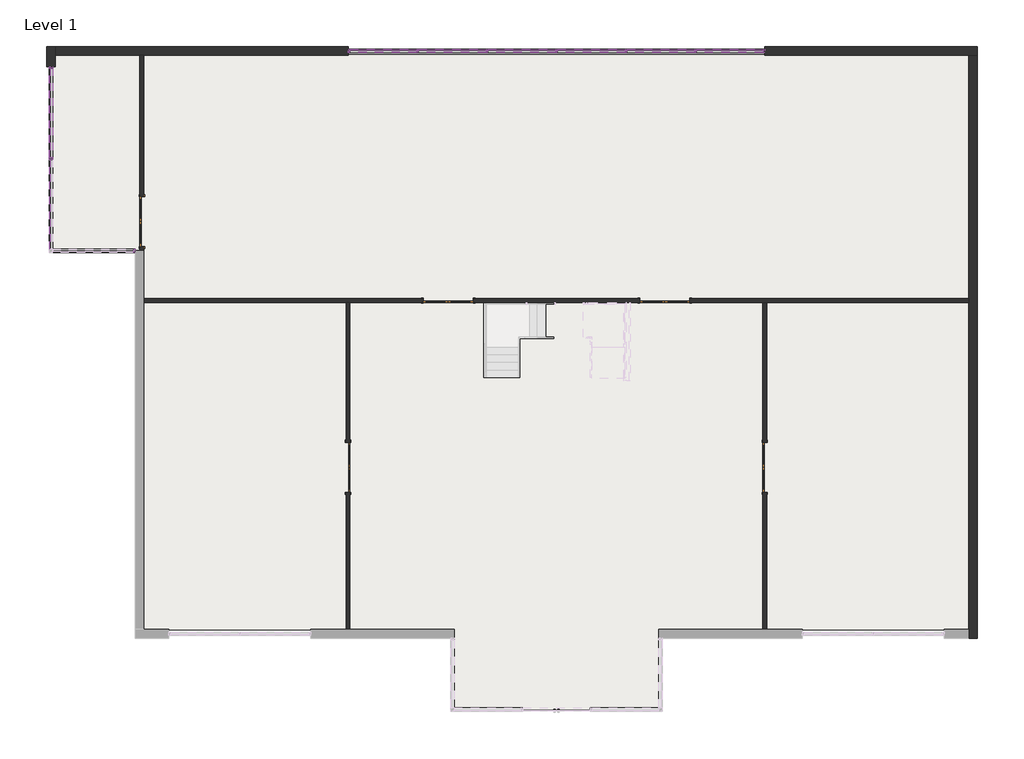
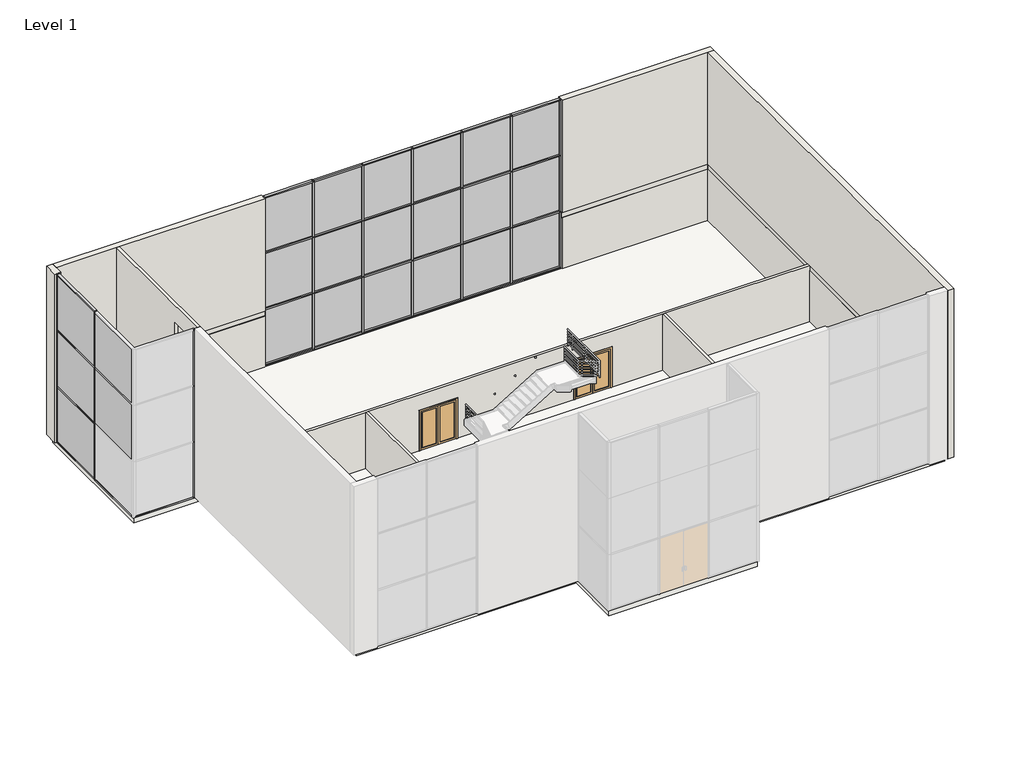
# One storey, part 2 of 5: 60 members, 23 plates, 7 walls, 5 doors, 1 slab.
"""IFC4 building model written with IfcOpenShell, lengths in millimetres."""

from ifc_helpers import new_model, si_unit, frame, origin, place, context, project, spatial, polyline, outline, extrude, faceted_brep, transform, mapped, element, save
from components import door_cb31edf2, door_3f2f997e, member_3f395ae9, member_65a3e7b2, member_eaba9652, member_4955b6a0, member_9c76a069, member_1f84ea9c, member_2d82c926, member_728bf22d, member_0c17b8a1, system_panel_glazed_e83c8d5a, system_panel_glazed_b0f97b96, system_panel_glazed_f5e36016, system_panel_glazed_d42ca814, system_panel_glazed_c65d631f, system_panel_glazed_26911bd7

model = new_model("IFC4")

# Units and contexts
model_context = context("Model", 3, world=origin())
ifc_project = project(units=[si_unit("LENGTHUNIT", "METRE", prefix="MILLI")], contexts=[model_context])

# Site, building, storey
site = spatial("IfcSite", under=ifc_project)
building = spatial("IfcBuilding", under=site)
storey = spatial("IfcBuildingStorey", under=building, Name="Level 1", Elevation=0.0)

# Doors
placement = place(None, origin())
door_shape = door_cb31edf2(model_context)
element("IfcDoor", 1, ObjectType="Door-Double-Glass : 72\" x 84\"", at=placement, inside=storey, context=model_context, shape_type="MappedRepresentation", body=[
    mapped(door_shape, transform((-18248.748632, 9505.1983604, 0.0), x_axis=(0.0, 1.0, 0.0), y_axis=(-1.0, 0.0, 0.0), z_axis=(0.0, 0.0, 1.0))),
])
door_2_shape = door_3f2f997e(model_context)
element("IfcDoor", 2, ObjectType="Door-Double-Glass : 72\" x 84\"", at=placement, inside=storey, context=model_context, shape_type="MappedRepresentation", body=[
    mapped(door_2_shape, transform((-10711.298632, 513.5983604, 0.0), x_axis=(0.0, -1.0, 0.0), y_axis=(1.0, 0.0, 0.0), z_axis=(0.0, 0.0, 1.0))),
])
element("IfcDoor", 3, ObjectType="Door-Double-Glass : 72\" x 84\"", at=placement, inside=storey, context=model_context, shape_type="MappedRepresentation", body=[
    mapped(door_2_shape, transform((4533.463868, 513.5983604, 0.0), x_axis=(0.0, 1.0, 0.0), y_axis=(-1.0, 0.0, 0.0), z_axis=(0.0, 0.0, 1.0))),
])
element("IfcDoor", 4, ObjectType="Door-Double-Glass : 72\" x 84\"", at=placement, inside=storey, context=model_context, shape_type="MappedRepresentation", body=[
    mapped(door_2_shape, transform((-7051.317382, 6611.9796104, 0.0), x_axis=(-1.0, 0.0, 0.0), y_axis=(0.0, -1.0, 0.0), z_axis=(0.0, 0.0, 1.0))),
])
element("IfcDoor", 5, ObjectType="Door-Double-Glass : 72\" x 84\"", at=placement, inside=storey, context=model_context, shape_type="MappedRepresentation", body=[
    mapped(door_2_shape, transform((873.482618, 6611.9796104, 0.0), x_axis=(-1.0, 0.0, 0.0), y_axis=(0.0, -1.0, 0.0), z_axis=(0.0, 0.0, 1.0))),
])

# Members
member_shape = member_3f395ae9(model_context)
element("IfcMember", 6, ObjectType="Rectangular Mullion : 2.5\" x 5\" rectangular", at=placement, inside=storey, context=model_context, shape_type="MappedRepresentation", body=[
    mapped(member_shape, transform((-18484.492382, 8438.3983604, 9144.0), x_axis=(1.0, 0.0, 0.0), y_axis=(0.0, 1.0, 0.0), z_axis=(0.0, 0.0, 1.0))),
])
element("IfcMember", 7, ObjectType="Rectangular Mullion : 2.5\" x 5\" rectangular", at=placement, inside=storey, context=model_context, shape_type="MappedRepresentation", body=[
    mapped(member_shape, transform((-18484.492382, 8438.3983604, 3048.0), x_axis=(1.0, 0.0, 0.0), y_axis=(0.0, 1.0, 0.0), z_axis=(0.0, 0.0, 1.0))),
])
member_2_shape = member_65a3e7b2(model_context)
element("IfcMember", 8, ObjectType="Rectangular Mullion : 2.5\" x 5\" rectangular", at=placement, inside=storey, context=model_context, shape_type="MappedRepresentation", body=[
    mapped(member_2_shape, transform((-10645.417382, 15753.5983604, 9144.0), x_axis=(0.0, 0.0, 1.0), y_axis=(0.0, 1.0, 0.0), z_axis=(-1.0, 0.0, 0.0))),
])
element("IfcMember", 9, ObjectType="Rectangular Mullion : 2.5\" x 5\" rectangular", at=placement, inside=storey, context=model_context, shape_type="MappedRepresentation", body=[
    mapped(member_2_shape, transform((2022.8326178, 15753.5983604, 9144.0), x_axis=(0.0, 0.0, 1.0), y_axis=(0.0, 1.0, 0.0), z_axis=(-1.0, 0.0, 0.0))),
])
element("IfcMember", 10, ObjectType="Rectangular Mullion : 2.5\" x 5\" rectangular", at=placement, inside=storey, context=model_context, shape_type="MappedRepresentation", body=[
    mapped(member_2_shape, transform((4467.582618, 15753.5983604, 0.0), x_axis=(0.0, 0.0, -1.0), y_axis=(0.0, 1.0, 0.0), z_axis=(1.0, 0.0, 0.0))),
])
element("IfcMember", 11, ObjectType="Rectangular Mullion : 2.5\" x 5\" rectangular", at=placement, inside=storey, context=model_context, shape_type="MappedRepresentation", body=[
    mapped(member_2_shape, transform((-8200.6673818, 15753.5983604, 0.0), x_axis=(0.0, 0.0, -1.0), y_axis=(0.0, 1.0, 0.0), z_axis=(1.0, 0.0, 0.0))),
])
member_3_shape = member_eaba9652(model_context)
element("IfcMember", 12, ObjectType="Rectangular Mullion : 2.5\" x 5\" rectangular", at=placement, inside=storey, context=model_context, shape_type="MappedRepresentation", body=[
    mapped(member_3_shape, transform((1991.0826178, 15753.5983604, 0.0), x_axis=(-1.0, 0.0, 0.0), y_axis=(0.0, 1.0, 0.0), z_axis=(0.0, 0.0, -1.0))),
])
element("IfcMember", 13, ObjectType="Rectangular Mullion : 2.5\" x 5\" rectangular", at=placement, inside=storey, context=model_context, shape_type="MappedRepresentation", body=[
    mapped(member_3_shape, transform((-548.9173821, 15753.5983604, 0.0), x_axis=(-1.0, 0.0, 0.0), y_axis=(0.0, 1.0, 0.0), z_axis=(0.0, 0.0, -1.0))),
])
element("IfcMember", 14, ObjectType="Rectangular Mullion : 2.5\" x 5\" rectangular", at=placement, inside=storey, context=model_context, shape_type="MappedRepresentation", body=[
    mapped(member_3_shape, transform((-3088.917382, 15753.5983604, 0.0), x_axis=(-1.0, 0.0, 0.0), y_axis=(0.0, 1.0, 0.0), z_axis=(0.0, 0.0, -1.0))),
])
element("IfcMember", 15, ObjectType="Rectangular Mullion : 2.5\" x 5\" rectangular", at=placement, inside=storey, context=model_context, shape_type="MappedRepresentation", body=[
    mapped(member_3_shape, transform((-5628.9173819, 15753.5983604, 0.0), x_axis=(-1.0, 0.0, 0.0), y_axis=(0.0, 1.0, 0.0), z_axis=(0.0, 0.0, -1.0))),
])
element("IfcMember", 16, ObjectType="Rectangular Mullion : 2.5\" x 5\" rectangular", at=placement, inside=storey, context=model_context, shape_type="MappedRepresentation", body=[
    mapped(member_3_shape, transform((-8168.9173818, 15753.5983604, 0.0), x_axis=(-1.0, 0.0, 0.0), y_axis=(0.0, 1.0, 0.0), z_axis=(0.0, 0.0, -1.0))),
])
element("IfcMember", 17, ObjectType="Rectangular Mullion : 2.5\" x 5\" rectangular", at=placement, inside=storey, context=model_context, shape_type="MappedRepresentation", body=[
    mapped(member_3_shape, transform((-21580.117382, 11807.0733604, 0.0), x_axis=(0.0, -1.0, 0.0), y_axis=(-1.0, 0.0, 0.0), z_axis=(0.0, 0.0, -1.0))),
])
member_4_shape = member_4955b6a0(model_context)
element("IfcMember", 18, ObjectType="Rectangular Mullion : 2.5\" x 5\" rectangular", at=placement, inside=storey, context=model_context, shape_type="MappedRepresentation", body=[
    mapped(member_4_shape, transform((2022.8326178, 15753.5983604, 3048.0), x_axis=(0.0, 0.0, 1.0), y_axis=(0.0, 1.0, 0.0), z_axis=(-1.0, 0.0, 0.0))),
])
element("IfcMember", 19, ObjectType="Rectangular Mullion : 2.5\" x 5\" rectangular", at=placement, inside=storey, context=model_context, shape_type="MappedRepresentation", body=[
    mapped(member_4_shape, transform((-10645.417382, 15753.5983604, 3048.0), x_axis=(0.0, 0.0, 1.0), y_axis=(0.0, 1.0, 0.0), z_axis=(-1.0, 0.0, 0.0))),
])
element("IfcMember", 20, ObjectType="Rectangular Mullion : 2.5\" x 5\" rectangular", at=placement, inside=storey, context=model_context, shape_type="MappedRepresentation", body=[
    mapped(member_4_shape, transform((2022.8326178, 15753.5983604, 6096.0), x_axis=(0.0, 0.0, 1.0), y_axis=(0.0, 1.0, 0.0), z_axis=(-1.0, 0.0, 0.0))),
])
element("IfcMember", 21, ObjectType="Rectangular Mullion : 2.5\" x 5\" rectangular", at=placement, inside=storey, context=model_context, shape_type="MappedRepresentation", body=[
    mapped(member_4_shape, transform((-10645.417382, 15753.5983604, 6096.0), x_axis=(0.0, 0.0, 1.0), y_axis=(0.0, 1.0, 0.0), z_axis=(-1.0, 0.0, 0.0))),
])
member_5_shape = member_9c76a069(model_context)
element("IfcMember", 22, ObjectType="Rectangular Mullion : 2.5\" x 5\" rectangular", at=placement, inside=storey, context=model_context, shape_type="MappedRepresentation", body=[
    mapped(member_5_shape, transform((-517.1673821, 15753.5983604, 3048.0), x_axis=(0.0, 0.0, 1.0), y_axis=(0.0, 1.0, 0.0), z_axis=(-1.0, 0.0, 0.0))),
])
element("IfcMember", 23, ObjectType="Rectangular Mullion : 2.5\" x 5\" rectangular", at=placement, inside=storey, context=model_context, shape_type="MappedRepresentation", body=[
    mapped(member_5_shape, transform((-3057.167382, 15753.5983604, 3048.0), x_axis=(0.0, 0.0, 1.0), y_axis=(0.0, 1.0, 0.0), z_axis=(-1.0, 0.0, 0.0))),
])
element("IfcMember", 24, ObjectType="Rectangular Mullion : 2.5\" x 5\" rectangular", at=placement, inside=storey, context=model_context, shape_type="MappedRepresentation", body=[
    mapped(member_5_shape, transform((-5597.1673819, 15753.5983604, 3048.0), x_axis=(0.0, 0.0, 1.0), y_axis=(0.0, 1.0, 0.0), z_axis=(-1.0, 0.0, 0.0))),
])
element("IfcMember", 25, ObjectType="Rectangular Mullion : 2.5\" x 5\" rectangular", at=placement, inside=storey, context=model_context, shape_type="MappedRepresentation", body=[
    mapped(member_5_shape, transform((-8137.1673818, 15753.5983604, 3048.0), x_axis=(0.0, 0.0, 1.0), y_axis=(0.0, 1.0, 0.0), z_axis=(-1.0, 0.0, 0.0))),
])
element("IfcMember", 26, ObjectType="Rectangular Mullion : 2.5\" x 5\" rectangular", at=placement, inside=storey, context=model_context, shape_type="MappedRepresentation", body=[
    mapped(member_5_shape, transform((-517.1673821, 15753.5983604, 6096.0), x_axis=(0.0, 0.0, 1.0), y_axis=(0.0, 1.0, 0.0), z_axis=(-1.0, 0.0, 0.0))),
])
element("IfcMember", 27, ObjectType="Rectangular Mullion : 2.5\" x 5\" rectangular", at=placement, inside=storey, context=model_context, shape_type="MappedRepresentation", body=[
    mapped(member_5_shape, transform((-3057.167382, 15753.5983604, 6096.0), x_axis=(0.0, 0.0, 1.0), y_axis=(0.0, 1.0, 0.0), z_axis=(-1.0, 0.0, 0.0))),
])
element("IfcMember", 28, ObjectType="Rectangular Mullion : 2.5\" x 5\" rectangular", at=placement, inside=storey, context=model_context, shape_type="MappedRepresentation", body=[
    mapped(member_5_shape, transform((-5597.1673819, 15753.5983604, 6096.0), x_axis=(0.0, 0.0, 1.0), y_axis=(0.0, 1.0, 0.0), z_axis=(-1.0, 0.0, 0.0))),
])
element("IfcMember", 29, ObjectType="Rectangular Mullion : 2.5\" x 5\" rectangular", at=placement, inside=storey, context=model_context, shape_type="MappedRepresentation", body=[
    mapped(member_5_shape, transform((-8137.1673818, 15753.5983604, 6096.0), x_axis=(0.0, 0.0, 1.0), y_axis=(0.0, 1.0, 0.0), z_axis=(-1.0, 0.0, 0.0))),
])
member_6_shape = member_1f84ea9c(model_context)
element("IfcMember", 30, ObjectType="Rectangular Mullion : 2.5\" x 5\" rectangular", at=placement, inside=storey, context=model_context, shape_type="MappedRepresentation", body=[
    mapped(member_6_shape, transform((1959.3326178, 15753.5983604, 0.0), x_axis=(0.0, 0.0, -1.0), y_axis=(0.0, 1.0, 0.0), z_axis=(1.0, 0.0, 0.0))),
])
element("IfcMember", 31, ObjectType="Rectangular Mullion : 2.5\" x 5\" rectangular", at=placement, inside=storey, context=model_context, shape_type="MappedRepresentation", body=[
    mapped(member_6_shape, transform((-580.6673821, 15753.5983604, 0.0), x_axis=(0.0, 0.0, -1.0), y_axis=(0.0, 1.0, 0.0), z_axis=(1.0, 0.0, 0.0))),
])
element("IfcMember", 32, ObjectType="Rectangular Mullion : 2.5\" x 5\" rectangular", at=placement, inside=storey, context=model_context, shape_type="MappedRepresentation", body=[
    mapped(member_6_shape, transform((-3120.667382, 15753.5983604, 0.0), x_axis=(0.0, 0.0, -1.0), y_axis=(0.0, 1.0, 0.0), z_axis=(1.0, 0.0, 0.0))),
])
element("IfcMember", 33, ObjectType="Rectangular Mullion : 2.5\" x 5\" rectangular", at=placement, inside=storey, context=model_context, shape_type="MappedRepresentation", body=[
    mapped(member_6_shape, transform((-5660.6673819, 15753.5983604, 0.0), x_axis=(0.0, 0.0, -1.0), y_axis=(0.0, 1.0, 0.0), z_axis=(1.0, 0.0, 0.0))),
])
element("IfcMember", 34, ObjectType="Rectangular Mullion : 2.5\" x 5\" rectangular", at=placement, inside=storey, context=model_context, shape_type="MappedRepresentation", body=[
    mapped(member_6_shape, transform((-517.1673821, 15753.5983604, 9144.0), x_axis=(0.0, 0.0, 1.0), y_axis=(0.0, 1.0, 0.0), z_axis=(-1.0, 0.0, 0.0))),
])
element("IfcMember", 35, ObjectType="Rectangular Mullion : 2.5\" x 5\" rectangular", at=placement, inside=storey, context=model_context, shape_type="MappedRepresentation", body=[
    mapped(member_6_shape, transform((-3057.167382, 15753.5983604, 9144.0), x_axis=(0.0, 0.0, 1.0), y_axis=(0.0, 1.0, 0.0), z_axis=(-1.0, 0.0, 0.0))),
])
element("IfcMember", 36, ObjectType="Rectangular Mullion : 2.5\" x 5\" rectangular", at=placement, inside=storey, context=model_context, shape_type="MappedRepresentation", body=[
    mapped(member_6_shape, transform((-5597.1673819, 15753.5983604, 9144.0), x_axis=(0.0, 0.0, 1.0), y_axis=(0.0, 1.0, 0.0), z_axis=(-1.0, 0.0, 0.0))),
])
element("IfcMember", 37, ObjectType="Rectangular Mullion : 2.5\" x 5\" rectangular", at=placement, inside=storey, context=model_context, shape_type="MappedRepresentation", body=[
    mapped(member_6_shape, transform((-8137.1673818, 15753.5983604, 9144.0), x_axis=(0.0, 0.0, 1.0), y_axis=(0.0, 1.0, 0.0), z_axis=(-1.0, 0.0, 0.0))),
])
element("IfcMember", 38, ObjectType="Rectangular Mullion : 2.5\" x 5\" rectangular", at=placement, inside=storey, context=model_context, shape_type="MappedRepresentation", body=[
    mapped(member_3_shape, transform((1991.0826178, 15753.5983604, 3048.0), x_axis=(-1.0, 0.0, 0.0), y_axis=(0.0, 1.0, 0.0), z_axis=(0.0, 0.0, -1.0))),
])
element("IfcMember", 39, ObjectType="Rectangular Mullion : 2.5\" x 5\" rectangular", at=placement, inside=storey, context=model_context, shape_type="MappedRepresentation", body=[
    mapped(member_3_shape, transform((-548.9173821, 15753.5983604, 3048.0), x_axis=(-1.0, 0.0, 0.0), y_axis=(0.0, 1.0, 0.0), z_axis=(0.0, 0.0, -1.0))),
])
element("IfcMember", 40, ObjectType="Rectangular Mullion : 2.5\" x 5\" rectangular", at=placement, inside=storey, context=model_context, shape_type="MappedRepresentation", body=[
    mapped(member_3_shape, transform((-3088.917382, 15753.5983604, 3048.0), x_axis=(-1.0, 0.0, 0.0), y_axis=(0.0, 1.0, 0.0), z_axis=(0.0, 0.0, -1.0))),
])
element("IfcMember", 41, ObjectType="Rectangular Mullion : 2.5\" x 5\" rectangular", at=placement, inside=storey, context=model_context, shape_type="MappedRepresentation", body=[
    mapped(member_3_shape, transform((-5628.9173819, 15753.5983604, 3048.0), x_axis=(-1.0, 0.0, 0.0), y_axis=(0.0, 1.0, 0.0), z_axis=(0.0, 0.0, -1.0))),
])
element("IfcMember", 42, ObjectType="Rectangular Mullion : 2.5\" x 5\" rectangular", at=placement, inside=storey, context=model_context, shape_type="MappedRepresentation", body=[
    mapped(member_3_shape, transform((-8168.9173818, 15753.5983604, 3048.0), x_axis=(-1.0, 0.0, 0.0), y_axis=(0.0, 1.0, 0.0), z_axis=(0.0, 0.0, -1.0))),
])
element("IfcMember", 43, ObjectType="Rectangular Mullion : 2.5\" x 5\" rectangular", at=placement, inside=storey, context=model_context, shape_type="MappedRepresentation", body=[
    mapped(member_3_shape, transform((-21580.117382, 11807.0733604, 3048.0), x_axis=(0.0, -1.0, 0.0), y_axis=(-1.0, 0.0, 0.0), z_axis=(0.0, 0.0, -1.0))),
])
element("IfcMember", 44, ObjectType="Rectangular Mullion : 2.5\" x 5\" rectangular", at=placement, inside=storey, context=model_context, shape_type="MappedRepresentation", body=[
    mapped(member_3_shape, transform((1991.0826178, 15753.5983604, 6096.0), x_axis=(-1.0, 0.0, 0.0), y_axis=(0.0, 1.0, 0.0), z_axis=(0.0, 0.0, -1.0))),
])
element("IfcMember", 45, ObjectType="Rectangular Mullion : 2.5\" x 5\" rectangular", at=placement, inside=storey, context=model_context, shape_type="MappedRepresentation", body=[
    mapped(member_3_shape, transform((-548.9173821, 15753.5983604, 6096.0), x_axis=(-1.0, 0.0, 0.0), y_axis=(0.0, 1.0, 0.0), z_axis=(0.0, 0.0, -1.0))),
])
element("IfcMember", 46, ObjectType="Rectangular Mullion : 2.5\" x 5\" rectangular", at=placement, inside=storey, context=model_context, shape_type="MappedRepresentation", body=[
    mapped(member_3_shape, transform((-3088.917382, 15753.5983604, 6096.0), x_axis=(-1.0, 0.0, 0.0), y_axis=(0.0, 1.0, 0.0), z_axis=(0.0, 0.0, -1.0))),
])
element("IfcMember", 47, ObjectType="Rectangular Mullion : 2.5\" x 5\" rectangular", at=placement, inside=storey, context=model_context, shape_type="MappedRepresentation", body=[
    mapped(member_3_shape, transform((-5628.9173819, 15753.5983604, 6096.0), x_axis=(-1.0, 0.0, 0.0), y_axis=(0.0, 1.0, 0.0), z_axis=(0.0, 0.0, -1.0))),
])
element("IfcMember", 48, ObjectType="Rectangular Mullion : 2.5\" x 5\" rectangular", at=placement, inside=storey, context=model_context, shape_type="MappedRepresentation", body=[
    mapped(member_3_shape, transform((-8168.9173818, 15753.5983604, 6096.0), x_axis=(-1.0, 0.0, 0.0), y_axis=(0.0, 1.0, 0.0), z_axis=(0.0, 0.0, -1.0))),
])
element("IfcMember", 49, ObjectType="Rectangular Mullion : 2.5\" x 5\" rectangular", at=placement, inside=storey, context=model_context, shape_type="MappedRepresentation", body=[
    mapped(member_3_shape, transform((-21580.117382, 11807.0733604, 6096.0), x_axis=(0.0, -1.0, 0.0), y_axis=(-1.0, 0.0, 0.0), z_axis=(0.0, 0.0, -1.0))),
])
element("IfcMember", 50, ObjectType="Rectangular Mullion : 2.5\" x 5\" rectangular", at=placement, inside=storey, context=model_context, shape_type="MappedRepresentation", body=[
    mapped(member_shape, transform((4531.082618, 15753.5983604, 9144.0), x_axis=(1.0, 0.0, 0.0), y_axis=(0.0, 1.0, 0.0), z_axis=(0.0, 0.0, 1.0))),
])
element("IfcMember", 51, ObjectType="Rectangular Mullion : 2.5\" x 5\" rectangular", at=placement, inside=storey, context=model_context, shape_type="MappedRepresentation", body=[
    mapped(member_shape, transform((-21580.117382, 15175.7483604, 9144.0), x_axis=(0.0, 1.0, 0.0), y_axis=(-1.0, 0.0, 0.0), z_axis=(0.0, 0.0, 1.0))),
])
element("IfcMember", 52, ObjectType="Rectangular Mullion : 2.5\" x 5\" rectangular", at=placement, inside=storey, context=model_context, shape_type="MappedRepresentation", body=[
    mapped(member_shape, transform((-10708.917382, 15753.5983604, 0.0), x_axis=(-1.0, 0.0, 0.0), y_axis=(0.0, 1.0, 0.0), z_axis=(0.0, 0.0, -1.0))),
])
element("IfcMember", 53, ObjectType="Rectangular Mullion : 2.5\" x 5\" rectangular", at=placement, inside=storey, context=model_context, shape_type="MappedRepresentation", body=[
    mapped(member_shape, transform((-10708.917382, 15753.5983604, 3048.0), x_axis=(-1.0, 0.0, 0.0), y_axis=(0.0, 1.0, 0.0), z_axis=(0.0, 0.0, -1.0))),
])
element("IfcMember", 54, ObjectType="Rectangular Mullion : 2.5\" x 5\" rectangular", at=placement, inside=storey, context=model_context, shape_type="MappedRepresentation", body=[
    mapped(member_shape, transform((-10708.917382, 15753.5983604, 6096.0), x_axis=(-1.0, 0.0, 0.0), y_axis=(0.0, 1.0, 0.0), z_axis=(0.0, 0.0, -1.0))),
])
element("IfcMember", 55, ObjectType="Rectangular Mullion : 2.5\" x 5\" rectangular", at=placement, inside=storey, context=model_context, shape_type="MappedRepresentation", body=[
    mapped(member_shape, transform((4531.082618, 15753.5983604, 3048.0), x_axis=(1.0, 0.0, 0.0), y_axis=(0.0, 1.0, 0.0), z_axis=(0.0, 0.0, 1.0))),
])
element("IfcMember", 56, ObjectType="Rectangular Mullion : 2.5\" x 5\" rectangular", at=placement, inside=storey, context=model_context, shape_type="MappedRepresentation", body=[
    mapped(member_shape, transform((-21580.117382, 15175.7483604, 3048.0), x_axis=(0.0, 1.0, 0.0), y_axis=(-1.0, 0.0, 0.0), z_axis=(0.0, 0.0, 1.0))),
])
element("IfcMember", 57, ObjectType="Rectangular Mullion : 2.5\" x 5\" rectangular", at=placement, inside=storey, context=model_context, shape_type="MappedRepresentation", body=[
    mapped(member_shape, transform((4531.082618, 15753.5983604, 6096.0), x_axis=(1.0, 0.0, 0.0), y_axis=(0.0, 1.0, 0.0), z_axis=(0.0, 0.0, 1.0))),
])
element("IfcMember", 58, ObjectType="Rectangular Mullion : 2.5\" x 5\" rectangular", at=placement, inside=storey, context=model_context, shape_type="MappedRepresentation", body=[
    mapped(member_shape, transform((-21580.117382, 15175.7483604, 6096.0), x_axis=(0.0, 1.0, 0.0), y_axis=(-1.0, 0.0, 0.0), z_axis=(0.0, 0.0, 1.0))),
])
element("IfcMember", 59, ObjectType="Rectangular Mullion : 2.5\" x 5\" rectangular", at=placement, inside=storey, context=model_context, shape_type="MappedRepresentation", body=[
    mapped(member_shape, transform((-18484.492382, 8438.3983604, 6096.0), x_axis=(1.0, 0.0, 0.0), y_axis=(0.0, 1.0, 0.0), z_axis=(0.0, 0.0, 1.0))),
])
member_7_shape = member_2d82c926(model_context)
element("IfcMember", 60, ObjectType="Rectangular Mullion : 2.5\" x 5\" rectangular", at=placement, inside=storey, context=model_context, shape_type="MappedRepresentation", body=[
    mapped(member_7_shape, transform((-21580.117382, 11838.8233604, 9144.0), x_axis=(0.0, 0.0, 1.0), y_axis=(-1.0, 0.0, 0.0), z_axis=(0.0, -1.0, 0.0))),
])
element("IfcMember", 61, ObjectType="Rectangular Mullion : 2.5\" x 5\" rectangular", at=placement, inside=storey, context=model_context, shape_type="MappedRepresentation", body=[
    mapped(member_7_shape, transform((-21580.117382, 15112.2483604, 0.0), x_axis=(0.0, 0.0, -1.0), y_axis=(-1.0, 0.0, 0.0), z_axis=(0.0, 1.0, 0.0))),
])
element("IfcMember", 62, ObjectType="Rectangular Mullion : 2.5\" x 5\" rectangular", at=placement, inside=storey, context=model_context, shape_type="MappedRepresentation", body=[
    mapped(member_7_shape, transform((-21580.117382, 11775.3233604, 0.0), x_axis=(0.0, 0.0, -1.0), y_axis=(-1.0, 0.0, 0.0), z_axis=(0.0, 1.0, 0.0))),
])
member_8_shape = member_728bf22d(model_context)
element("IfcMember", 63, ObjectType="Rectangular Mullion : 2.5\" x 5\" rectangular", at=placement, inside=storey, context=model_context, shape_type="MappedRepresentation", body=[
    mapped(member_8_shape, transform((-21580.117382, 11838.8233604, 3048.0), x_axis=(0.0, 0.0, 1.0), y_axis=(-1.0, 0.0, 0.0), z_axis=(0.0, -1.0, 0.0))),
])
element("IfcMember", 64, ObjectType="Rectangular Mullion : 2.5\" x 5\" rectangular", at=placement, inside=storey, context=model_context, shape_type="MappedRepresentation", body=[
    mapped(member_8_shape, transform((-21580.117382, 11838.8233604, 6096.0), x_axis=(0.0, 0.0, 1.0), y_axis=(-1.0, 0.0, 0.0), z_axis=(0.0, -1.0, 0.0))),
])
member_9_shape = member_0c17b8a1(model_context)
element("IfcMember", 65, ObjectType="Rectangular Mullion : 2.5\" x 5\" rectangular", at=placement, inside=storey, context=model_context, shape_type="MappedRepresentation", body=[
    mapped(member_9_shape, transform((-18547.992382, 8438.3983604, 0.0), x_axis=(0.0, 0.0, -1.0), y_axis=(0.0, 1.0, 0.0), z_axis=(1.0, 0.0, 0.0))),
])

# Plates
system_panel_glazed_shape = system_panel_glazed_e83c8d5a(model_context)
element("IfcPlate", 66, ObjectType="System Panel : Glazed", at=placement, inside=storey, context=model_context, shape_type="MappedRepresentation", body=[
    mapped(system_panel_glazed_shape, transform((3245.2076179, 15753.5983604, 63.5), x_axis=(-1.0, 0.0, 0.0), y_axis=(0.0, -1.0, 0.0), z_axis=(0.0, 0.0, 1.0))),
])
element("IfcPlate", 67, ObjectType="System Panel : Glazed", at=placement, inside=storey, context=model_context, shape_type="MappedRepresentation", body=[
    mapped(system_panel_glazed_shape, transform((-9423.0423819, 15753.5983604, 63.5), x_axis=(-1.0, 0.0, 0.0), y_axis=(0.0, -1.0, 0.0), z_axis=(0.0, 0.0, 1.0))),
])
element("IfcPlate", 68, ObjectType="System Panel : Glazed", at=placement, inside=storey, context=model_context, shape_type="MappedRepresentation", body=[
    mapped(system_panel_glazed_shape, transform((3245.2076179, 15753.5983604, 6127.75), x_axis=(-1.0, 0.0, 0.0), y_axis=(0.0, -1.0, 0.0), z_axis=(0.0, 0.0, 1.0))),
])
element("IfcPlate", 69, ObjectType="System Panel : Glazed", at=placement, inside=storey, context=model_context, shape_type="MappedRepresentation", body=[
    mapped(system_panel_glazed_shape, transform((-9423.0423819, 15753.5983604, 6127.75), x_axis=(-1.0, 0.0, 0.0), y_axis=(0.0, -1.0, 0.0), z_axis=(0.0, 0.0, 1.0))),
])
system_panel_glazed_2_shape = system_panel_glazed_b0f97b96(model_context)
element("IfcPlate", 70, ObjectType="System Panel : Glazed", at=placement, inside=storey, context=model_context, shape_type="MappedRepresentation", body=[
    mapped(system_panel_glazed_2_shape, transform((721.0826179, 15753.5983604, 63.5), x_axis=(-1.0, 0.0, 0.0), y_axis=(0.0, -1.0, 0.0), z_axis=(0.0, 0.0, 1.0))),
])
element("IfcPlate", 71, ObjectType="System Panel : Glazed", at=placement, inside=storey, context=model_context, shape_type="MappedRepresentation", body=[
    mapped(system_panel_glazed_2_shape, transform((-1818.917382, 15753.5983604, 63.5), x_axis=(-1.0, 0.0, 0.0), y_axis=(0.0, -1.0, 0.0), z_axis=(0.0, 0.0, 1.0))),
])
element("IfcPlate", 72, ObjectType="System Panel : Glazed", at=placement, inside=storey, context=model_context, shape_type="MappedRepresentation", body=[
    mapped(system_panel_glazed_2_shape, transform((-4358.9173819, 15753.5983604, 63.5), x_axis=(-1.0, 0.0, 0.0), y_axis=(0.0, -1.0, 0.0), z_axis=(0.0, 0.0, 1.0))),
])
element("IfcPlate", 73, ObjectType="System Panel : Glazed", at=placement, inside=storey, context=model_context, shape_type="MappedRepresentation", body=[
    mapped(system_panel_glazed_2_shape, transform((-6898.9173818, 15753.5983604, 63.5), x_axis=(-1.0, 0.0, 0.0), y_axis=(0.0, -1.0, 0.0), z_axis=(0.0, 0.0, 1.0))),
])
element("IfcPlate", 74, ObjectType="System Panel : Glazed", at=placement, inside=storey, context=model_context, shape_type="MappedRepresentation", body=[
    mapped(system_panel_glazed_2_shape, transform((721.0826179, 15753.5983604, 6127.75), x_axis=(-1.0, 0.0, 0.0), y_axis=(0.0, -1.0, 0.0), z_axis=(0.0, 0.0, 1.0))),
])
element("IfcPlate", 75, ObjectType="System Panel : Glazed", at=placement, inside=storey, context=model_context, shape_type="MappedRepresentation", body=[
    mapped(system_panel_glazed_2_shape, transform((-1818.917382, 15753.5983604, 6127.75), x_axis=(-1.0, 0.0, 0.0), y_axis=(0.0, -1.0, 0.0), z_axis=(0.0, 0.0, 1.0))),
])
element("IfcPlate", 76, ObjectType="System Panel : Glazed", at=placement, inside=storey, context=model_context, shape_type="MappedRepresentation", body=[
    mapped(system_panel_glazed_2_shape, transform((-4358.9173819, 15753.5983604, 6127.75), x_axis=(-1.0, 0.0, 0.0), y_axis=(0.0, -1.0, 0.0), z_axis=(0.0, 0.0, 1.0))),
])
element("IfcPlate", 77, ObjectType="System Panel : Glazed", at=placement, inside=storey, context=model_context, shape_type="MappedRepresentation", body=[
    mapped(system_panel_glazed_2_shape, transform((-6898.9173818, 15753.5983604, 6127.75), x_axis=(-1.0, 0.0, 0.0), y_axis=(0.0, -1.0, 0.0), z_axis=(0.0, 0.0, 1.0))),
])
system_panel_glazed_3_shape = system_panel_glazed_f5e36016(model_context)
element("IfcPlate", 78, ObjectType="System Panel : Glazed", at=placement, inside=storey, context=model_context, shape_type="MappedRepresentation", body=[
    mapped(system_panel_glazed_3_shape, transform((3245.2076179, 15753.5983604, 3079.75), x_axis=(-1.0, 0.0, 0.0), y_axis=(0.0, -1.0, 0.0), z_axis=(0.0, 0.0, 1.0))),
])
element("IfcPlate", 79, ObjectType="System Panel : Glazed", at=placement, inside=storey, context=model_context, shape_type="MappedRepresentation", body=[
    mapped(system_panel_glazed_3_shape, transform((-9423.0423819, 15753.5983604, 3079.75), x_axis=(-1.0, 0.0, 0.0), y_axis=(0.0, -1.0, 0.0), z_axis=(0.0, 0.0, 1.0))),
])
system_panel_glazed_4_shape = system_panel_glazed_d42ca814(model_context)
element("IfcPlate", 80, ObjectType="System Panel : Glazed", at=placement, inside=storey, context=model_context, shape_type="MappedRepresentation", body=[
    mapped(system_panel_glazed_4_shape, transform((721.0826179, 15753.5983604, 3079.75), x_axis=(-1.0, 0.0, 0.0), y_axis=(0.0, -1.0, 0.0), z_axis=(0.0, 0.0, 1.0))),
])
element("IfcPlate", 81, ObjectType="System Panel : Glazed", at=placement, inside=storey, context=model_context, shape_type="MappedRepresentation", body=[
    mapped(system_panel_glazed_4_shape, transform((-1818.917382, 15753.5983604, 3079.75), x_axis=(-1.0, 0.0, 0.0), y_axis=(0.0, -1.0, 0.0), z_axis=(0.0, 0.0, 1.0))),
])
element("IfcPlate", 82, ObjectType="System Panel : Glazed", at=placement, inside=storey, context=model_context, shape_type="MappedRepresentation", body=[
    mapped(system_panel_glazed_4_shape, transform((-4358.9173819, 15753.5983604, 3079.75), x_axis=(-1.0, 0.0, 0.0), y_axis=(0.0, -1.0, 0.0), z_axis=(0.0, 0.0, 1.0))),
])
element("IfcPlate", 83, ObjectType="System Panel : Glazed", at=placement, inside=storey, context=model_context, shape_type="MappedRepresentation", body=[
    mapped(system_panel_glazed_4_shape, transform((-6898.9173818, 15753.5983604, 3079.75), x_axis=(-1.0, 0.0, 0.0), y_axis=(0.0, -1.0, 0.0), z_axis=(0.0, 0.0, 1.0))),
])
system_panel_glazed_5_shape = system_panel_glazed_c65d631f(model_context)
element("IfcPlate", 84, ObjectType="System Panel : Glazed", at=placement, inside=storey, context=model_context, shape_type="MappedRepresentation", body=[
    mapped(system_panel_glazed_5_shape, transform((-21580.117382, 13475.5358604, 63.5), x_axis=(0.0, -1.0, 0.0), y_axis=(1.0, 0.0, 0.0), z_axis=(0.0, 0.0, 1.0))),
])
element("IfcPlate", 85, ObjectType="System Panel : Glazed", at=placement, inside=storey, context=model_context, shape_type="MappedRepresentation", body=[
    mapped(system_panel_glazed_5_shape, transform((-21580.117382, 13475.5358604, 6127.75), x_axis=(0.0, -1.0, 0.0), y_axis=(1.0, 0.0, 0.0), z_axis=(0.0, 0.0, 1.0))),
])
element("IfcPlate", 86, ObjectType="System Panel : Glazed", at=placement, inside=storey, context=model_context, shape_type="MappedRepresentation", body=[
    mapped(system_panel_glazed_5_shape, transform((-21580.117382, 10138.6108604, 6127.75), x_axis=(0.0, -1.0, 0.0), y_axis=(1.0, 0.0, 0.0), z_axis=(0.0, 0.0, 1.0))),
])
system_panel_glazed_6_shape = system_panel_glazed_26911bd7(model_context)
element("IfcPlate", 87, ObjectType="System Panel : Glazed", at=placement, inside=storey, context=model_context, shape_type="MappedRepresentation", body=[
    mapped(system_panel_glazed_6_shape, transform((-21580.117382, 13475.5358604, 3079.75), x_axis=(0.0, -1.0, 0.0), y_axis=(1.0, 0.0, 0.0), z_axis=(0.0, 0.0, 1.0))),
])
element("IfcPlate", 88, ObjectType="System Panel : Glazed", at=placement, inside=storey, context=model_context, shape_type="MappedRepresentation", body=[
    mapped(system_panel_glazed_6_shape, transform((-21580.117382, 10138.6108604, 3079.75), x_axis=(0.0, -1.0, 0.0), y_axis=(1.0, 0.0, 0.0), z_axis=(0.0, 0.0, 1.0))),
])

# Slab
element("IfcSlab", 89, ObjectType="Generic - 12\"", at=placement, inside=storey, context=model_context, shape_type="SweptSolid", body=[
    extrude(outline(polyline([(12008.207618, 15610.7233604), (12008.207618, -5439.5266396), (721.082618, -5439.5266396), (721.082618, -8357.3516396), (-6898.917382, -8357.3516396), (-6898.917382, -5439.5266396), (-18186.042382, -5439.5266396), (-18186.042382, 8438.3983604), (-21580.117382, 8438.3983604), (-21580.117382, 15610.7233604), (12008.207618, 15610.7233604)])), frame((0.0, 0.0, -304.8), z_axis=(0.0, 0.0, 1.0), x_axis=(1.0, 0.0, 0.0)), (0.0, 0.0, 1.0), 304.8),
])

# Walls
element("IfcWall", 90, ObjectType="Exterior - EIFS on Mtl. Stud", at=placement, inside=storey, context=model_context, shape_type="Brep", body=[
    faceted_brep([(12306.657618, 15598.0233604, 0.0), (12306.657618, 15598.0233604, 9144.0), (11995.507618, 15598.0233604, 9144.0), (4531.082618, 15598.0233604, 9144.0), (4531.082618, 15598.0233604, 3048.0), (11995.507618, 15598.0233604, 3048.0), (12008.207618, 15598.0233604, 3048.0), (12008.207618, 15598.0233604, 2774.95), (11995.507618, 15598.0233604, 2774.95), (4531.082618, 15598.0233604, 2774.95), (4531.082618, 15598.0233604, 0.0), (11995.507618, 15598.0233604, 0.0), (12306.657618, 15909.1733604, 9144.0), (12306.657618, 15909.1733604, 0.0), (4531.082618, 15909.1733604, 0.0), (4531.082618, 15909.1733604, 9144.0), (4531.082618, 15610.7233604, 2774.95), (4531.082618, 15610.7233604, 3048.0), (12008.207618, 15610.7233604, 2774.95), (12008.207618, 15610.7233604, 3048.0)], [[[0, 1, 2, 3, 4, 5, 6, 7, 8, 9, 10, 11]], [[12, 13, 14, 15]], [[13, 0, 11, 10, 14]], [[1, 12, 15, 3, 2]], [[1, 0, 13, 12]], [[15, 14, 10, 9, 16, 17, 4, 3]], [[18, 16, 9, 8, 7]], [[19, 6, 5, 4, 17]], [[19, 18, 7, 6]], [[18, 19, 17, 16]]]),
    faceted_brep([(-21424.542382, 15598.0233604, 0.0), (-18328.917382, 15598.0233604, 0.0), (-18173.342382, 15598.0233604, 0.0), (-10708.917382, 15598.0233604, 0.0), (-10708.917382, 15598.0233604, 2774.95), (-21424.542382, 15598.0233604, 2774.95), (-10708.917382, 15598.0233604, 9144.0), (-18173.342382, 15598.0233604, 9144.0), (-18328.917382, 15598.0233604, 9144.0), (-21424.542382, 15598.0233604, 9144.0), (-21424.542382, 15598.0233604, 3048.0), (-10708.917382, 15598.0233604, 3048.0), (-10708.917382, 15909.1733604, 0.0), (-21424.542382, 15909.1733604, 0.0), (-21424.542382, 15909.1733604, 9144.0), (-10708.917382, 15909.1733604, 9144.0), (-10708.917382, 15610.7233604, 3048.0), (-10708.917382, 15610.7233604, 2774.95), (-21424.542382, 15610.7233604, 2774.95), (-21424.542382, 15610.7233604, 3048.0)], [[[0, 1, 2, 3, 4, 5]], [[6, 7, 8, 9, 10, 11]], [[12, 13, 14, 15]], [[3, 2, 1, 0, 13, 12]], [[9, 8, 7, 6, 15, 14]], [[12, 15, 6, 11, 16, 17, 4, 3]], [[9, 14, 13, 0, 5, 18, 19, 10]], [[17, 18, 5, 4]], [[19, 16, 11, 10]], [[18, 17, 16, 19]]]),
])
element("IfcWall", 91, ObjectType="Exterior - EIFS on Mtl. Stud", at=placement, inside=storey, context=model_context, shape_type="Brep", body=[
    faceted_brep([(11995.507618, 15598.0233604, 0.0), (11995.507618, 6679.4483604, 0.0), (11995.507618, 6539.7483604, 0.0), (11995.507618, -5426.8266396, 0.0), (11995.507618, -5737.9766396, 0.0), (11995.507618, -5737.9766396, 9144.0), (11995.507618, -5426.8266396, 9144.0), (11995.507618, 6539.7483604, 9144.0), (11995.507618, 6679.4483604, 9144.0), (11995.507618, 15598.0233604, 9144.0), (11995.507618, 15598.0233604, 3048.0), (11995.507618, 6679.4483604, 3048.0), (11995.507618, 6539.7483604, 3048.0), (11995.507618, -5426.8266396, 3048.0), (11995.507618, -5439.5266396, 3048.0), (11995.507618, -5439.5266396, 2774.95), (11995.507618, -5426.8266396, 2774.95), (11995.507618, 15598.0233604, 2774.95), (12306.657618, -5737.9766396, 0.0), (12306.657618, 15598.0233604, 0.0), (12306.657618, 15598.0233604, 9144.0), (12306.657618, -5737.9766396, 9144.0), (12008.207618, 15598.0233604, 2774.95), (12008.207618, 15598.0233604, 3048.0), (12008.207618, -5439.5266396, 2774.95), (12008.207618, -5439.5266396, 3048.0)], [[[0, 1, 2, 3, 4, 5, 6, 7, 8, 9, 10, 11, 12, 13, 14, 15, 16, 17]], [[18, 19, 20, 21]], [[4, 3, 2, 1, 0, 19, 18]], [[9, 8, 7, 6, 5, 21, 20]], [[9, 20, 19, 0, 17, 22, 23, 10]], [[5, 4, 18, 21]], [[15, 24, 22, 17, 16]], [[23, 25, 14, 13, 12, 11, 10]], [[24, 25, 23, 22]], [[25, 24, 15, 14]]]),
])
element("IfcWall", 92, ObjectType="Exterior - EIFS on Mtl. Stud", at=placement, inside=storey, context=model_context, shape_type="Brep", body=[
    faceted_brep([(-21735.692382, 15909.1733604, 0.0), (-21735.692382, 15175.7483604, 0.0), (-21735.692382, 15175.7483604, 9144.0), (-21735.692382, 15909.1733604, 9144.0), (-21424.542382, 15909.1733604, 0.0), (-21424.542382, 15909.1733604, 9144.0), (-21424.542382, 15598.0233604, 9144.0), (-21424.542382, 15175.7483604, 9144.0), (-21424.542382, 15175.7483604, 0.0), (-21424.542382, 15598.0233604, 0.0)], [[[0, 1, 2, 3]], [[4, 5, 6, 7, 8, 9]], [[1, 0, 4, 9, 8]], [[2, 1, 8, 7]], [[3, 2, 7, 6, 5]], [[0, 3, 5, 4]]]),
])
element("IfcWall", 93, ObjectType="Interior - 5 1/2\" Partition (1-hr)", at=placement, inside=storey, context=model_context, shape_type="Brep", body=[
    faceted_brep([(-6136.917382, 6539.7483604, 0.0), (-40.917382, 6539.7483604, 0.0), (-40.917382, 6539.7483604, 2133.6), (1787.882618, 6539.7483604, 2133.6), (1787.882618, 6539.7483604, 0.0), (4461.232618, 6539.7483604, 0.0), (4600.932618, 6539.7483604, 0.0), (11995.507618, 6539.7483604, 0.0), (11995.507618, 6539.7483604, 3048.0), (4600.932618, 6539.7483604, 3048.0), (4461.232618, 6539.7483604, 3048.0), (1787.882618, 6539.7483604, 3048.0), (-40.917382, 6539.7483604, 3048.0), (-6136.917382, 6539.7483604, 3048.0), (-7965.717382, 6539.7483604, 3048.0), (-10639.067382, 6539.7483604, 3048.0), (-10778.767382, 6539.7483604, 3048.0), (-18173.342382, 6539.7483604, 3048.0), (-18173.342382, 6539.7483604, 0.0), (-10778.767382, 6539.7483604, 0.0), (-10639.067382, 6539.7483604, 0.0), (-7965.717382, 6539.7483604, 0.0), (-7965.717382, 6539.7483604, 2133.6), (-6136.917382, 6539.7483604, 2133.6), (-40.917382, 6679.4483604, 2133.6), (-40.917382, 6679.4483604, 0.0), (-6136.917382, 6679.4483604, 0.0), (-6136.917382, 6679.4483604, 2133.6), (-7965.717382, 6679.4483604, 2133.6), (-7965.717382, 6679.4483604, 0.0), (-18173.342382, 6679.4483604, 0.0), (-18173.342382, 6679.4483604, 3048.0), (-7965.717382, 6679.4483604, 3048.0), (-6136.917382, 6679.4483604, 3048.0), (-40.917382, 6679.4483604, 3048.0), (1787.882618, 6679.4483604, 3048.0), (11995.507618, 6679.4483604, 3048.0), (11995.507618, 6679.4483604, 0.0), (1787.882618, 6679.4483604, 0.0), (1787.882618, 6679.4483604, 2133.6)], [[[0, 1, 2, 3, 4, 5, 6, 7, 8, 9, 10, 11, 12, 13, 14, 15, 16, 17, 18, 19, 20, 21, 22, 23]], [[24, 25, 26, 27, 28, 29, 30, 31, 32, 33, 34, 35, 36, 37, 38, 39]], [[30, 29, 21, 20, 19, 18]], [[38, 37, 7, 6, 5, 4]], [[26, 25, 1, 0]], [[17, 16, 15, 14, 13, 12, 11, 10, 9, 8, 36, 35, 34, 33, 32, 31]], [[8, 7, 37, 36]], [[18, 17, 31, 30]], [[22, 21, 29, 28]], [[23, 22, 28, 27]], [[0, 23, 27, 26]], [[2, 1, 25, 24]], [[3, 2, 24, 39]], [[4, 3, 39, 38]]]),
])
element("IfcWall", 94, ObjectType="Interior - 5 1/2\" Partition (1-hr)", at=placement, inside=storey, context=model_context, shape_type="Brep", body=[
    faceted_brep([(4461.232618, 6539.7483604, 0.0), (4461.232618, 1427.9983604, 0.0), (4461.232618, 1427.9983604, 2133.6), (4461.232618, -400.8016396, 2133.6), (4461.232618, -400.8016396, 0.0), (4461.232618, -5426.8266396, 0.0), (4461.232618, -5426.8266396, 3048.0), (4461.232618, -400.8016396, 3048.0), (4461.232618, 1427.9983604, 3048.0), (4461.232618, 6539.7483604, 3048.0), (4600.932618, 1427.9983604, 2133.6), (4600.932618, 1427.9983604, 0.0), (4600.932618, 6539.7483604, 0.0), (4600.932618, 6539.7483604, 3048.0), (4600.932618, 1427.9983604, 3048.0), (4600.932618, -400.8016396, 3048.0), (4600.932618, -5426.8266396, 3048.0), (4600.932618, -5426.8266396, 0.0), (4600.932618, -400.8016396, 0.0), (4600.932618, -400.8016396, 2133.6)], [[[0, 1, 2, 3, 4, 5, 6, 7, 8, 9]], [[10, 11, 12, 13, 14, 15, 16, 17, 18, 19]], [[18, 17, 5, 4]], [[12, 11, 1, 0]], [[9, 8, 7, 6, 16, 15, 14, 13]], [[6, 5, 17, 16]], [[0, 9, 13, 12]], [[2, 1, 11, 10]], [[3, 2, 10, 19]], [[4, 3, 19, 18]]]),
])
element("IfcWall", 95, ObjectType="Interior - 5 1/2\" Partition (1-hr)", at=placement, inside=storey, context=model_context, shape_type="Brep", body=[
    faceted_brep([(-10778.767382, -400.8016396, 2133.6), (-10778.767382, -400.8016396, 0.0), (-10778.767382, -5426.8266396, 0.0), (-10778.767382, -5426.8266396, 3048.0), (-10778.767382, -400.8016396, 3048.0), (-10778.767382, 1427.9983604, 3048.0), (-10778.767382, 6539.7483604, 3048.0), (-10778.767382, 6539.7483604, 0.0), (-10778.767382, 1427.9983604, 0.0), (-10778.767382, 1427.9983604, 2133.6), (-10639.067382, -5426.8266396, 0.0), (-10639.067382, -400.8016396, 0.0), (-10639.067382, -400.8016396, 2133.6), (-10639.067382, 1427.9983604, 2133.6), (-10639.067382, 1427.9983604, 0.0), (-10639.067382, 6539.7483604, 0.0), (-10639.067382, 6539.7483604, 3048.0), (-10639.067382, 1427.9983604, 3048.0), (-10639.067382, -400.8016396, 3048.0), (-10639.067382, -5426.8266396, 3048.0)], [[[0, 1, 2, 3, 4, 5, 6, 7, 8, 9]], [[10, 11, 12, 13, 14, 15, 16, 17, 18, 19]], [[8, 7, 15, 14]], [[2, 1, 11, 10]], [[6, 5, 4, 3, 19, 18, 17, 16]], [[3, 2, 10, 19]], [[7, 6, 16, 15]], [[12, 11, 1, 0]], [[13, 12, 0, 9]], [[14, 13, 9, 8]]]),
])
element("IfcWall", 96, ObjectType="Interior - 6 1/8\" Partition (2-hr)", at=placement, inside=storey, context=model_context, shape_type="SweptSolid", body=[
    extrude(outline(polyline([(15598.0233604, 0.0), (10419.5983604, 0.0), (10419.5983604, 2133.6), (8590.7983604, 2133.6), (8590.7983604, 0.0), (8438.3983604, 0.0), (8438.3983604, 9144.0), (15598.0233604, 9144.0), (15598.0233604, 0.0)]), holes=[polyline([(8590.7983604, 3048.0), (10419.5983604, 3048.0), (10419.5983604, 5181.6), (8590.7983604, 5181.6), (8590.7983604, 3048.0)]), polyline([(8590.7983604, 6096.0), (10419.5983604, 6096.0), (10419.5983604, 8229.6), (8590.7983604, 8229.6), (8590.7983604, 6096.0)])]), frame((-18328.917382, 0.0, 0.0), z_axis=(1.0, 0.0, 0.0), x_axis=(0.0, 1.0, 0.0)), (0.0, 0.0, 1.0), 155.575),
])

save(model, "model.ifc")
